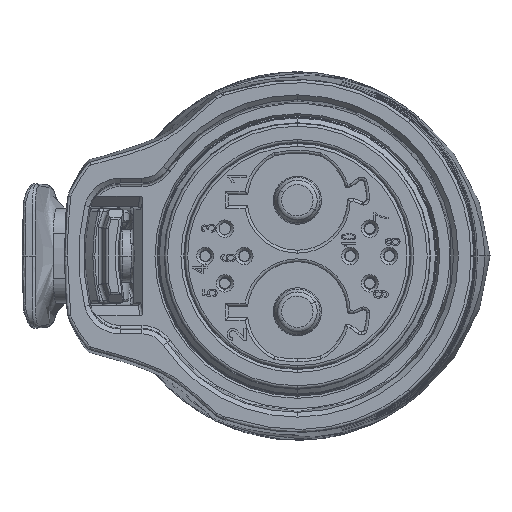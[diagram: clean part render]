
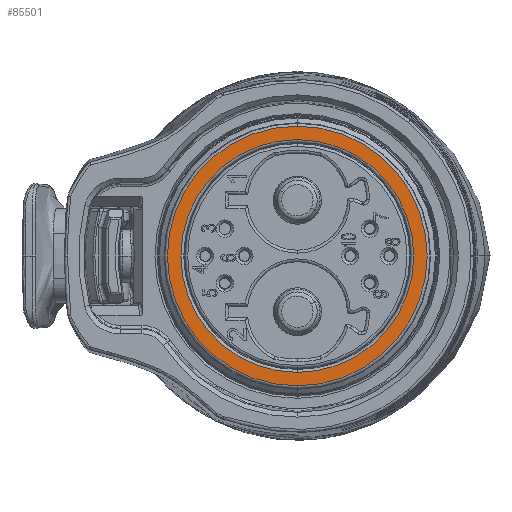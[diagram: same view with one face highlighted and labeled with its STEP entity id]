
A CAD part, left-side view. The second image highlights one B-rep face of the part: STEP entity #85501.
In plain terms, the highlighted planar face has unit normal (-1, 0, 0).
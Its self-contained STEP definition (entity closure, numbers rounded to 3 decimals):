
#639 = ORIENTED_EDGE ( 'NONE', *, *, #14434, .T. ) ;
#2670 = CIRCLE ( 'NONE', #7294, 13.502 ) ;
#5649 = DIRECTION ( 'NONE',  ( 1., 0., 0. ) ) ;
#6247 = DIRECTION ( 'NONE',  ( 1., 0., 0. ) ) ;
#7294 = AXIS2_PLACEMENT_3D ( 'NONE', #119447, #140014, #142905 ) ;
#14434 = EDGE_CURVE ( 'NONE', #57456, #48261, #67261, .T. ) ;
#17154 = CARTESIAN_POINT ( 'NONE',  ( 0., 0., 0. ) ) ;
#26494 = CARTESIAN_POINT ( 'NONE',  ( 0., 0., 0. ) ) ;
#27561 = ORIENTED_EDGE ( 'NONE', *, *, #144656, .T. ) ;
#29393 = DIRECTION ( 'NONE',  ( 1., 0., 0. ) ) ;
#47859 = EDGE_LOOP ( 'NONE', ( #27561, #639 ) ) ;
#48261 = VERTEX_POINT ( 'NONE', #97484 ) ;
#48873 = FACE_BOUND ( 'NONE', #47859, .T. ) ;
#53824 = AXIS2_PLACEMENT_3D ( 'NONE', #73233, #5649, #85694 ) ;
#57456 = VERTEX_POINT ( 'NONE', #141735 ) ;
#61375 = CARTESIAN_POINT ( 'NONE',  ( 0., 11.8, 0. ) ) ;
#64948 = AXIS2_PLACEMENT_3D ( 'NONE', #26494, #29393, #129330 ) ;
#67261 = CIRCLE ( 'NONE', #64948, 12.101 ) ;
#73233 = CARTESIAN_POINT ( 'NONE',  ( 0., 0., 0. ) ) ;
#74869 = ORIENTED_EDGE ( 'NONE', *, *, #131110, .T. ) ;
#76916 = AXIS2_PLACEMENT_3D ( 'NONE', #17154, #95727, #97172 ) ;
#81942 = FACE_OUTER_BOUND ( 'NONE', #116880, .T. ) ;
#85501 = ADVANCED_FACE ( 'NONE', ( #48873, #81942 ), #93658, .F. ) ;
#85694 = DIRECTION ( 'NONE',  ( 0., 0., -1. ) ) ;
#88420 = ORIENTED_EDGE ( 'NONE', *, *, #117181, .T. ) ;
#92003 = CARTESIAN_POINT ( 'NONE',  ( 0., 0., 13.502 ) ) ;
#93658 = PLANE ( 'NONE',  #103993 ) ;
#95727 = DIRECTION ( 'NONE',  ( -1., 0., 0. ) ) ;
#97172 = DIRECTION ( 'NONE',  ( 0., 0., -1. ) ) ;
#97484 = CARTESIAN_POINT ( 'NONE',  ( 0., 0., -12.101 ) ) ;
#98406 = CIRCLE ( 'NONE', #53824, 12.101 ) ;
#103993 = AXIS2_PLACEMENT_3D ( 'NONE', #61375, #6247, #140654 ) ;
#107051 = VERTEX_POINT ( 'NONE', #123512 ) ;
#116880 = EDGE_LOOP ( 'NONE', ( #74869, #88420 ) ) ;
#117181 = EDGE_CURVE ( 'NONE', #135284, #107051, #2670, .T. ) ;
#119447 = CARTESIAN_POINT ( 'NONE',  ( 0., 0., 0. ) ) ;
#123512 = CARTESIAN_POINT ( 'NONE',  ( 0., 0., -13.502 ) ) ;
#123809 = CIRCLE ( 'NONE', #76916, 13.502 ) ;
#129330 = DIRECTION ( 'NONE',  ( 0., 0., -1. ) ) ;
#131110 = EDGE_CURVE ( 'NONE', #107051, #135284, #123809, .T. ) ;
#135284 = VERTEX_POINT ( 'NONE', #92003 ) ;
#140014 = DIRECTION ( 'NONE',  ( -1., 0., 0. ) ) ;
#140654 = DIRECTION ( 'NONE',  ( 0., 0., -1. ) ) ;
#141735 = CARTESIAN_POINT ( 'NONE',  ( 0., 0., 12.101 ) ) ;
#142905 = DIRECTION ( 'NONE',  ( 0., 0., -1. ) ) ;
#144656 = EDGE_CURVE ( 'NONE', #48261, #57456, #98406, .T. ) ;
